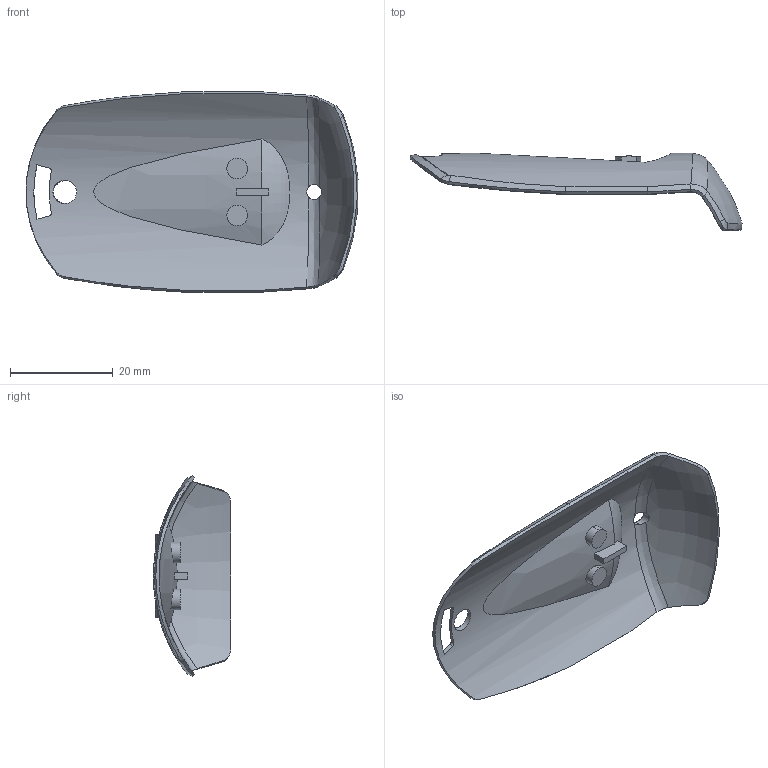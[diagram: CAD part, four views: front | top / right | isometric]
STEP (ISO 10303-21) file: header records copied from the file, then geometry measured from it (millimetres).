
FILE_DESCRIPTION (( 'STEP AP214' ), '1' );
FILE_NAME ('Junta PP103.STEP', '2018-06-05T09:11:31', ( 'aaa' ), ( '' ), 'SwSTEP 2.0', 'SolidWorks 2013', '' );
FILE_SCHEMA (( 'AUTOMOTIVE_DESIGN' ));
Length unit declared in the file: millimetre
Products named in the file (1): Junta PP103
Bounding box: 64.53 x 15 x 38.88 mm (x, y, z)
Volume: 3029.8 mm3; surface area: 5643.6 mm2
Topology: 1 solids, 1 shells, 101 faces, 274 edges, 177 vertices
Faces by surface type: bspline 39, cylinder 30, plane 25, torus 4, cone 3
Entity records: 5105 total; most frequent: CARTESIAN_POINT 2924, ORIENTED_EDGE 548, DIRECTION 280, EDGE_CURVE 274, VERTEX_POINT 177, B_SPLINE_CURVE_WITH_KNOTS 148, EDGE_LOOP 109, ADVANCED_FACE 101
